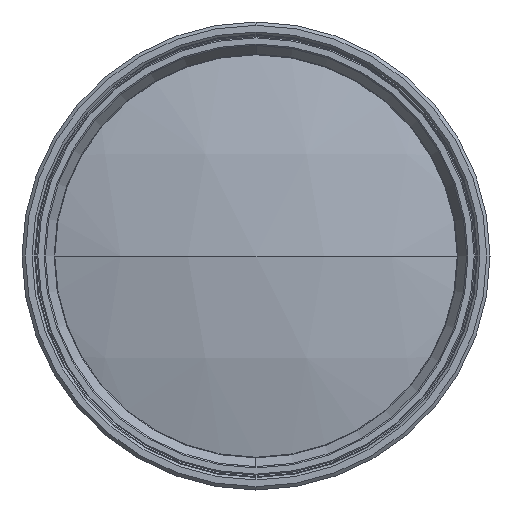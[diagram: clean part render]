
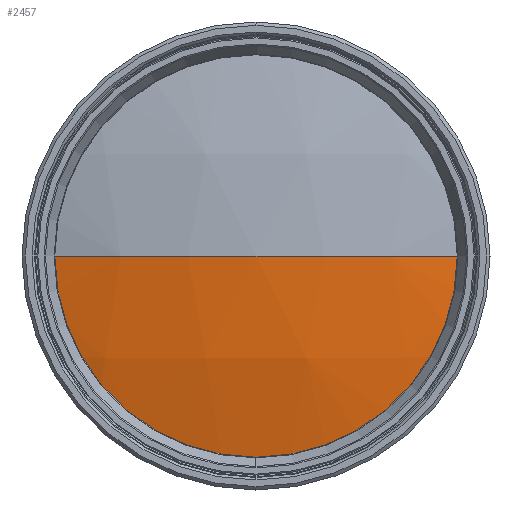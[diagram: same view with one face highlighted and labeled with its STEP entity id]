
A CAD part, left-side view. The second image highlights one B-rep face of the part: STEP entity #2457.
In plain terms, the highlighted spherical face has radius 115.5 mm.
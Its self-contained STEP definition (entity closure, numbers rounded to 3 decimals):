
#22 = EDGE_CURVE ( 'NONE', #2607, #945, #3832, .T. ) ;
#328 = ORIENTED_EDGE ( 'NONE', *, *, #22, .T. ) ;
#502 = DIRECTION ( 'NONE',  ( -1., 0., 0. ) ) ;
#709 = ORIENTED_EDGE ( 'NONE', *, *, #3946, .T. ) ;
#718 = CIRCLE ( 'NONE', #1476, 115.5 ) ;
#793 = AXIS2_PLACEMENT_3D ( 'NONE', #1485, #502, #4069 ) ;
#807 = CARTESIAN_POINT ( 'NONE',  ( -88.372, 0., 0. ) ) ;
#816 = AXIS2_PLACEMENT_3D ( 'NONE', #1560, #2535, #2156 ) ;
#945 = VERTEX_POINT ( 'NONE', #2302 ) ;
#1018 = SPHERICAL_SURFACE ( 'NONE', #3045, 115.5 ) ;
#1039 = DIRECTION ( 'NONE',  ( 0., 1., 0. ) ) ;
#1146 = EDGE_CURVE ( 'NONE', #2929, #1237, #718, .T. ) ;
#1237 = VERTEX_POINT ( 'NONE', #3444 ) ;
#1253 = AXIS2_PLACEMENT_3D ( 'NONE', #1870, #1857, #4149 ) ;
#1476 = AXIS2_PLACEMENT_3D ( 'NONE', #807, #3065, #3401 ) ;
#1485 = CARTESIAN_POINT ( 'NONE',  ( -199.854, 0., 0. ) ) ;
#1496 = CIRCLE ( 'NONE', #816, 30.2 ) ;
#1560 = CARTESIAN_POINT ( 'NONE',  ( -199.854, 0., 0. ) ) ;
#1848 = EDGE_LOOP ( 'NONE', ( #328, #3440, #3435, #709 ) ) ;
#1857 = DIRECTION ( 'NONE',  ( 0., 0., -1. ) ) ;
#1862 = FACE_OUTER_BOUND ( 'NONE', #1848, .T. ) ;
#1870 = CARTESIAN_POINT ( 'NONE',  ( -88.372, 0., 0. ) ) ;
#2015 = EDGE_CURVE ( 'NONE', #945, #1237, #3565, .T. ) ;
#2156 = DIRECTION ( 'NONE',  ( 0., 0., 1. ) ) ;
#2302 = CARTESIAN_POINT ( 'NONE',  ( -199.854, -30.2, 0. ) ) ;
#2303 = CARTESIAN_POINT ( 'NONE',  ( -199.854, 0., -30.2 ) ) ;
#2457 = ADVANCED_FACE ( 'NONE', ( #1862 ), #1018, .T. ) ;
#2535 = DIRECTION ( 'NONE',  ( -1., 0., 0. ) ) ;
#2566 = CARTESIAN_POINT ( 'NONE',  ( -88.372, 0., 0. ) ) ;
#2607 = VERTEX_POINT ( 'NONE', #2303 ) ;
#2929 = VERTEX_POINT ( 'NONE', #3673 ) ;
#3045 = AXIS2_PLACEMENT_3D ( 'NONE', #2566, #3217, #1039 ) ;
#3065 = DIRECTION ( 'NONE',  ( 0., 0., 1. ) ) ;
#3217 = DIRECTION ( 'NONE',  ( 0., 0., -1. ) ) ;
#3401 = DIRECTION ( 'NONE',  ( 1., 0., 0. ) ) ;
#3435 = ORIENTED_EDGE ( 'NONE', *, *, #1146, .F. ) ;
#3440 = ORIENTED_EDGE ( 'NONE', *, *, #2015, .T. ) ;
#3444 = CARTESIAN_POINT ( 'NONE',  ( -203.872, 0., 0. ) ) ;
#3565 = CIRCLE ( 'NONE', #1253, 115.5 ) ;
#3673 = CARTESIAN_POINT ( 'NONE',  ( -199.854, 30.2, 0. ) ) ;
#3832 = CIRCLE ( 'NONE', #793, 30.2 ) ;
#3946 = EDGE_CURVE ( 'NONE', #2929, #2607, #1496, .T. ) ;
#4069 = DIRECTION ( 'NONE',  ( 0., 0., 1. ) ) ;
#4149 = DIRECTION ( 'NONE',  ( 0., 1., 0. ) ) ;
